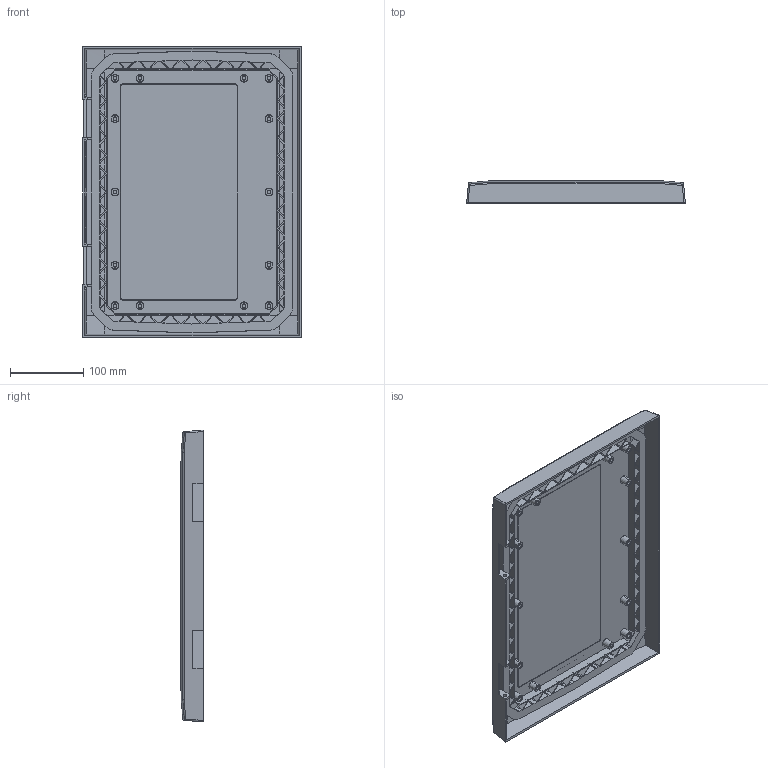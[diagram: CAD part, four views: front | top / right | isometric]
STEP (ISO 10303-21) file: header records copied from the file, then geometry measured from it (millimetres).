
FILE_DESCRIPTION (( 'STEP AP214' ), '1' );
FILE_NAME ('BXPFAT400300150-P01', '2015-07-28T06:38:47', ( '' ), ( '' ), 'SwSTEP 2.0', 'SolidWorks 2014', '' );
FILE_SCHEMA (( 'AUTOMOTIVE_DESIGN' ));
Length unit declared in the file: millimetre
Products named in the file (3): BXPFAT400300150-P01
Assembly tree (2 placements, depth 2):
  BXPFAT400300150-P01
    BXPFAT400300150-P01
    BXPFAT400300150-P01
Bounding box: 298 x 30.5 x 398 mm (x, y, z)
Volume: 720442.4 mm3; surface area: 400642.5 mm2
Topology: 2 solids, 2 shells, 768 faces, 1906 edges, 1254 vertices
Faces by surface type: plane 600, cone 78, cylinder 60, bspline 30
Entity records: 23839 total; most frequent: CARTESIAN_POINT 5236, ORIENTED_EDGE 3812, DIRECTION 3488, EDGE_CURVE 1906, VECTOR 1554, LINE 1554, VERTEX_POINT 1254, AXIS2_PLACEMENT_3D 967
